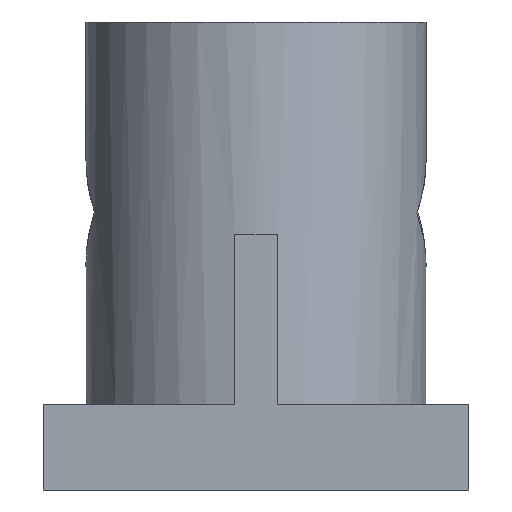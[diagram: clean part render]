
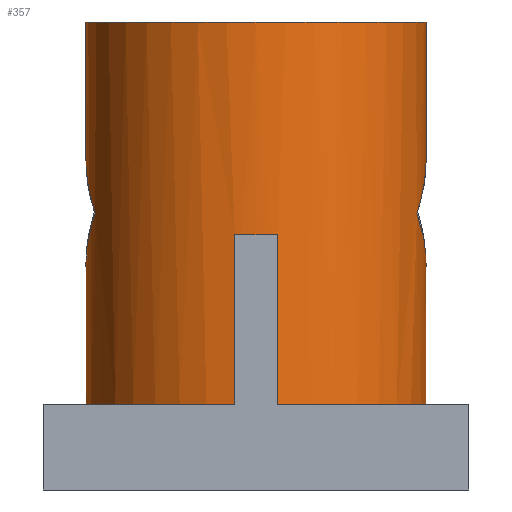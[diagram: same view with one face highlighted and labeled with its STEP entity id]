
A CAD part, left-side view. The second image highlights one B-rep face of the part: STEP entity #357.
In plain terms, the highlighted cylindrical face has radius 40 mm (diameter 80 mm), a full revolution.
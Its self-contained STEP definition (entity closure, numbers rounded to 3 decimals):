
#181=CARTESIAN_POINT('',(0.,0.,90.));
#182=DIRECTION('',(0.,0.,-1.));
#183=DIRECTION('',(-1.,0.,0.));
#184=AXIS2_PLACEMENT_3D('',#181,#182,#183);
#185=CYLINDRICAL_SURFACE('',#184,40.);
#186=CARTESIAN_POINT('',(-40.,0.,40.));
#187=VERTEX_POINT('',#186);
#188=CARTESIAN_POINT('',(-40.,0.,90.));
#189=VERTEX_POINT('',#188);
#190=CARTESIAN_POINT('',(-40.,0.,40.));
#191=DIRECTION('',(-0.,-0.,1.));
#192=VECTOR('',#191,50.);
#193=LINE('',#190,#192);
#194=EDGE_CURVE('',#187,#189,#193,.T.);
#195=ORIENTED_EDGE('',*,*,#194,.T.);
#196=CARTESIAN_POINT('',(0.,0.,90.));
#197=DIRECTION('',(0.,0.,1.));
#198=DIRECTION('',(-1.,0.,0.));
#199=AXIS2_PLACEMENT_3D('',#196,#197,#198);
#200=CIRCLE('',#199,40.);
#201=EDGE_CURVE('',#189,#189,#200,.T.);
#202=ORIENTED_EDGE('',*,*,#201,.F.);
#203=ORIENTED_EDGE('',*,*,#194,.F.);
#204=CARTESIAN_POINT('',(-39.686,-5.,40.));
#205=VERTEX_POINT('',#204);
#206=CARTESIAN_POINT('',(0.,0.,40.));
#207=DIRECTION('',(-0.,-0.,-1.));
#208=DIRECTION('',(1.,0.,-0.));
#209=AXIS2_PLACEMENT_3D('',#206,#207,#208);
#210=CIRCLE('',#209,40.);
#211=EDGE_CURVE('',#205,#187,#210,.T.);
#212=ORIENTED_EDGE('',*,*,#211,.F.);
#213=CARTESIAN_POINT('',(-39.686,-5.,0.));
#214=VERTEX_POINT('',#213);
#215=CARTESIAN_POINT('',(-39.686,-5.,0.));
#216=DIRECTION('',(-0.,-0.,1.));
#217=VECTOR('',#216,40.);
#218=LINE('',#215,#217);
#219=EDGE_CURVE('',#214,#205,#218,.T.);
#220=ORIENTED_EDGE('',*,*,#219,.F.);
#221=CARTESIAN_POINT('',(39.686,-5.,0.));
#222=VERTEX_POINT('',#221);
#223=CARTESIAN_POINT('',(0.,0.,0.));
#224=DIRECTION('',(0.,0.,1.));
#225=DIRECTION('',(-1.,0.,0.));
#226=AXIS2_PLACEMENT_3D('',#223,#224,#225);
#227=CIRCLE('',#226,40.);
#228=EDGE_CURVE('',#214,#222,#227,.T.);
#229=ORIENTED_EDGE('',*,*,#228,.T.);
#230=CARTESIAN_POINT('',(39.686,-5.,40.));
#231=VERTEX_POINT('',#230);
#232=CARTESIAN_POINT('',(39.686,-5.,40.));
#233=DIRECTION('',(0.,0.,-1.));
#234=VECTOR('',#233,40.);
#235=LINE('',#232,#234);
#236=EDGE_CURVE('',#231,#222,#235,.T.);
#237=ORIENTED_EDGE('',*,*,#236,.F.);
#238=CARTESIAN_POINT('',(39.686,5.,40.));
#239=VERTEX_POINT('',#238);
#240=CARTESIAN_POINT('',(0.,0.,40.));
#241=DIRECTION('',(-0.,-0.,1.));
#242=DIRECTION('',(-1.,0.,0.));
#243=AXIS2_PLACEMENT_3D('',#240,#241,#242);
#244=CIRCLE('',#243,40.);
#245=EDGE_CURVE('',#231,#239,#244,.T.);
#246=ORIENTED_EDGE('',*,*,#245,.T.);
#247=CARTESIAN_POINT('',(39.686,5.,0.));
#248=VERTEX_POINT('',#247);
#249=CARTESIAN_POINT('',(39.686,5.,40.));
#250=DIRECTION('',(0.,0.,-1.));
#251=VECTOR('',#250,40.);
#252=LINE('',#249,#251);
#253=EDGE_CURVE('',#239,#248,#252,.T.);
#254=ORIENTED_EDGE('',*,*,#253,.T.);
#255=CARTESIAN_POINT('',(-39.686,5.,0.));
#256=VERTEX_POINT('',#255);
#257=CARTESIAN_POINT('',(0.,0.,0.));
#258=DIRECTION('',(0.,0.,1.));
#259=DIRECTION('',(-1.,0.,0.));
#260=AXIS2_PLACEMENT_3D('',#257,#258,#259);
#261=CIRCLE('',#260,40.);
#262=EDGE_CURVE('',#248,#256,#261,.T.);
#263=ORIENTED_EDGE('',*,*,#262,.T.);
#264=CARTESIAN_POINT('',(-39.686,5.,40.));
#265=VERTEX_POINT('',#264);
#266=CARTESIAN_POINT('',(-39.686,5.,0.));
#267=DIRECTION('',(-0.,-0.,1.));
#268=VECTOR('',#267,40.);
#269=LINE('',#266,#268);
#270=EDGE_CURVE('',#256,#265,#269,.T.);
#271=ORIENTED_EDGE('',*,*,#270,.T.);
#272=CARTESIAN_POINT('',(0.,0.,40.));
#273=DIRECTION('',(-0.,-0.,-1.));
#274=DIRECTION('',(1.,0.,-0.));
#275=AXIS2_PLACEMENT_3D('',#272,#273,#274);
#276=CIRCLE('',#275,40.);
#277=EDGE_CURVE('',#187,#265,#276,.T.);
#278=ORIENTED_EDGE('',*,*,#277,.F.);
#279=EDGE_LOOP('',(#195,#202,#203,#212,#220,#229,#237,#246,#254,#263,#271,#278));
#280=FACE_BOUND('',#279,.T.);
#281=CARTESIAN_POINT('',(12.45,38.013,45.55));
#282=VERTEX_POINT('',#281);
#283=CARTESIAN_POINT('',(0.,40.,32.55));
#284=VERTEX_POINT('',#283);
#285=CARTESIAN_POINT('',(0.,0.,32.55));
#286=DIRECTION('',(-0.722,0.,0.692));
#287=DIRECTION('',(-0.692,0.,-0.722));
#288=AXIS2_PLACEMENT_3D('',#285,#286,#287);
#289=ELLIPSE('',#288,57.832,40.);
#290=EDGE_CURVE('',#282,#284,#289,.T.);
#291=ORIENTED_EDGE('',*,*,#290,.F.);
#292=CARTESIAN_POINT('',(-0.55,39.996,58.));
#293=VERTEX_POINT('',#292);
#294=CARTESIAN_POINT('',(0.,0.,57.473));
#295=DIRECTION('',(-0.692,0.,-0.722));
#296=DIRECTION('',(0.722,0.,-0.692));
#297=AXIS2_PLACEMENT_3D('',#294,#295,#296);
#298=ELLIPSE('',#297,55.385,40.);
#299=EDGE_CURVE('',#293,#282,#298,.T.);
#300=ORIENTED_EDGE('',*,*,#299,.F.);
#301=CARTESIAN_POINT('',(-13.,37.829,45.));
#302=VERTEX_POINT('',#301);
#303=CARTESIAN_POINT('',(0.,0.,58.574));
#304=DIRECTION('',(0.722,0.,-0.692));
#305=DIRECTION('',(-0.692,0.,-0.722));
#306=AXIS2_PLACEMENT_3D('',#303,#304,#305);
#307=ELLIPSE('',#306,57.832,40.);
#308=EDGE_CURVE('',#302,#293,#307,.T.);
#309=ORIENTED_EDGE('',*,*,#308,.F.);
#310=CARTESIAN_POINT('',(0.,0.,32.55));
#311=DIRECTION('',(0.692,0.,0.722));
#312=DIRECTION('',(0.722,0.,-0.692));
#313=AXIS2_PLACEMENT_3D('',#310,#311,#312);
#314=ELLIPSE('',#313,55.385,40.);
#315=EDGE_CURVE('',#284,#302,#314,.T.);
#316=ORIENTED_EDGE('',*,*,#315,.F.);
#317=EDGE_LOOP('',(#291,#300,#309,#316));
#318=FACE_BOUND('',#317,.T.);
#319=CARTESIAN_POINT('',(-0.55,-39.996,58.));
#320=VERTEX_POINT('',#319);
#321=CARTESIAN_POINT('',(-13.,-37.829,45.));
#322=VERTEX_POINT('',#321);
#323=CARTESIAN_POINT('',(0.,0.,58.574));
#324=DIRECTION('',(0.722,0.,-0.692));
#325=DIRECTION('',(-0.692,0.,-0.722));
#326=AXIS2_PLACEMENT_3D('',#323,#324,#325);
#327=ELLIPSE('',#326,57.832,40.);
#328=EDGE_CURVE('',#320,#322,#327,.T.);
#329=ORIENTED_EDGE('',*,*,#328,.F.);
#330=CARTESIAN_POINT('',(12.45,-38.013,45.55));
#331=VERTEX_POINT('',#330);
#332=CARTESIAN_POINT('',(0.,0.,57.473));
#333=DIRECTION('',(-0.692,0.,-0.722));
#334=DIRECTION('',(0.722,0.,-0.692));
#335=AXIS2_PLACEMENT_3D('',#332,#333,#334);
#336=ELLIPSE('',#335,55.385,40.);
#337=EDGE_CURVE('',#331,#320,#336,.T.);
#338=ORIENTED_EDGE('',*,*,#337,.F.);
#339=CARTESIAN_POINT('',(0.,-40.,32.55));
#340=VERTEX_POINT('',#339);
#341=CARTESIAN_POINT('',(0.,0.,32.55));
#342=DIRECTION('',(-0.722,0.,0.692));
#343=DIRECTION('',(-0.692,0.,-0.722));
#344=AXIS2_PLACEMENT_3D('',#341,#342,#343);
#345=ELLIPSE('',#344,57.832,40.);
#346=EDGE_CURVE('',#340,#331,#345,.T.);
#347=ORIENTED_EDGE('',*,*,#346,.F.);
#348=CARTESIAN_POINT('',(0.,0.,32.55));
#349=DIRECTION('',(0.692,0.,0.722));
#350=DIRECTION('',(0.722,0.,-0.692));
#351=AXIS2_PLACEMENT_3D('',#348,#349,#350);
#352=ELLIPSE('',#351,55.385,40.);
#353=EDGE_CURVE('',#322,#340,#352,.T.);
#354=ORIENTED_EDGE('',*,*,#353,.F.);
#355=EDGE_LOOP('',(#329,#338,#347,#354));
#356=FACE_BOUND('',#355,.T.);
#357=ADVANCED_FACE('',(#280,#318,#356),#185,.T.);
